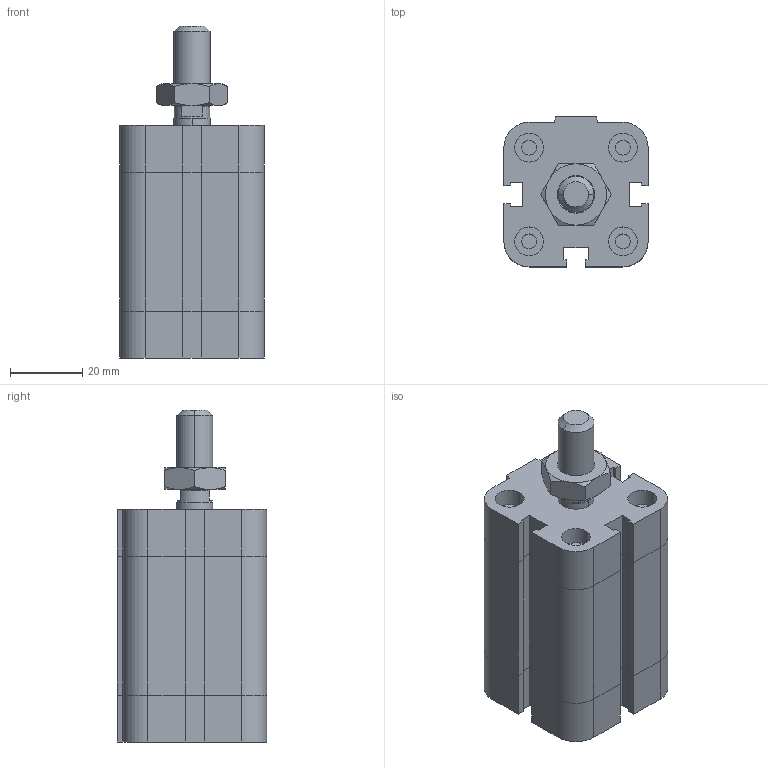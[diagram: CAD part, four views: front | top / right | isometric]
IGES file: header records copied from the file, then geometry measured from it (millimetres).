
Global section: file name: No Iges File Name specified; native system: Autodesk Inventor 2009; preprocessor: AutoDesk Inventor Iges Exporter R2009; author: rivolro1; date: 20081219.161648; units: millimetre
Bounding box: 40 x 41.5 x 92 mm (x, y, z)
Volume: 94677.1 mm3; surface area: 22692.5 mm2
Topology: 3 solids, 3 shells, 216 faces, 472 edges, 282 vertices
Faces by surface type: plane 121, bspline 37, cylinder 20, cone 20, revolution 18
